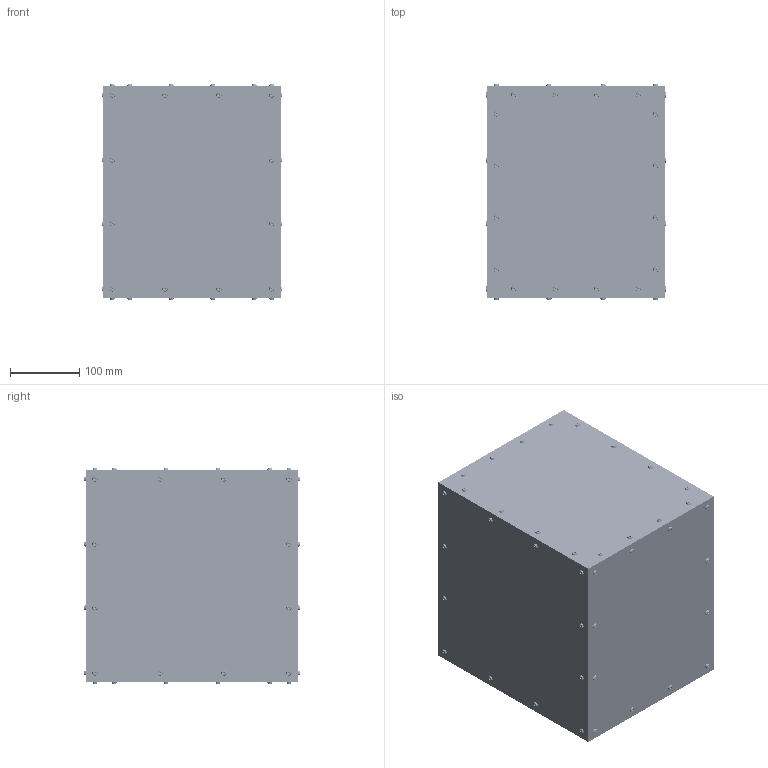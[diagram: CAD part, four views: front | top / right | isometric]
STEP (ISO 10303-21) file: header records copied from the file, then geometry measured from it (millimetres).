
FILE_DESCRIPTION (( 'STEP AP214' ), '1' );
FILE_NAME ('FAU-BOITE1-01 20x20 300x300x250.STEP', '2025-08-06T14:41:21', ( '' ), ( '' ), 'SwSTEP 2.0', 'SolidWorks 2017', '' );
FILE_SCHEMA (( 'AUTOMOTIVE_DESIGN' ));
Length unit declared in the file: millimetre
Products named in the file (11): panneau 2 boite 1 20x20; base06b0001 Profilé 20x20 mm - 6 mm_260; panneau 3 boite 1 20x20; FAU-BOITE1-01 20x20 300x300x250; panneau 1 boite 1 20x20_2; base06b0001 Profilé 20x20 mm - 6 mm_210; fixe06b1219 Kit équerre - 6 mm - 20x20x20; fixe06b1125 Ecrou coulisseau - 6 St - M4 - 6 mm; fixe06b1125 Ecrou coulisseau - 6 St - M4 - 6 mm_90; vis M4-8; base06b0001 Profilé 20x20 mm - 6 mm_300
Assembly tree (202 placements, depth 2):
  FAU-BOITE1-01 20x20 300x300x250
    base06b0001 Profilé 20x20 mm - 6 mm_300  x4
    base06b0001 Profilé 20x20 mm - 6 mm_260  x4
    base06b0001 Profilé 20x20 mm - 6 mm_210  x4
    fixe06b1219 Kit équerre - 6 mm - 20x20x20  x24
    panneau 2 boite 1 20x20  x2
    panneau 1 boite 1 20x20_2  x2
    panneau 3 boite 1 20x20  x2
    fixe06b1125 Ecrou coulisseau - 6 St - M4 - 6 mm  x48
    vis M4-8  x80
    fixe06b1125 Ecrou coulisseau - 6 St - M4 - 6 mm_90  x32
Bounding box: 260.4 x 310.4 x 310.4 mm (x, y, z)
Volume: 2079421 mm3; surface area: 1667977.3 mm2
Topology: 298 solids, 298 shells, 9412 faces, 26456 edges, 17408 vertices
Faces by surface type: plane 4804, cylinder 3968, cone 512, bspline 128
Entity records: 30926 total; most frequent: CARTESIAN_POINT 5378, DIRECTION 5091, ORIENTED_EDGE 4658, EDGE_CURVE 2329, AXIS2_PLACEMENT_3D 1828, VERTEX_POINT 1555, VECTOR 1435, LINE 1435
